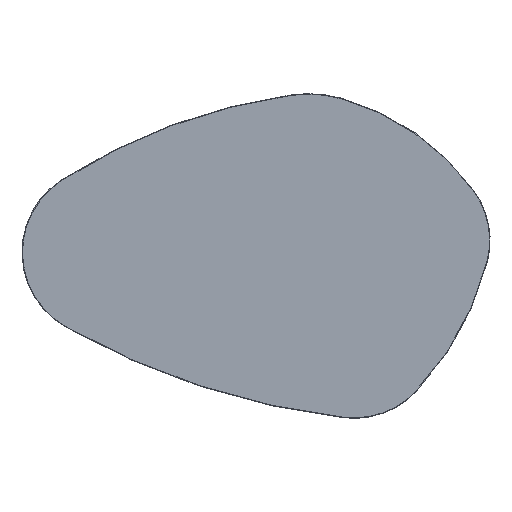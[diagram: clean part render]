
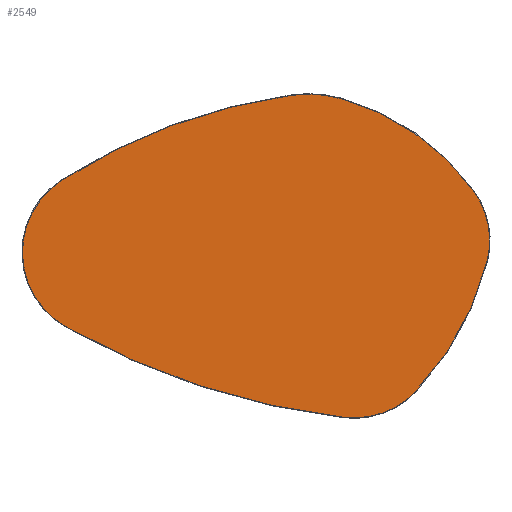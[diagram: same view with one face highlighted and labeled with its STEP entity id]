
A CAD part, top view. The second image highlights one B-rep face of the part: STEP entity #2549.
In plain terms, the highlighted planar face has unit normal (0, 0, 1) as drawn and (0, 0, -1) by its records, which use the part's own axes.
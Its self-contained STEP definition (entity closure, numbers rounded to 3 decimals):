
#510=PLANE('',#3008);
#780=ORIENTED_EDGE('',*,*,#1356,.T.);
#781=ORIENTED_EDGE('',*,*,#1357,.T.);
#782=ORIENTED_EDGE('',*,*,#1358,.T.);
#783=ORIENTED_EDGE('',*,*,#1359,.T.);
#784=ORIENTED_EDGE('',*,*,#1360,.T.);
#785=ORIENTED_EDGE('',*,*,#1361,.T.);
#786=ORIENTED_EDGE('',*,*,#1362,.T.);
#787=ORIENTED_EDGE('',*,*,#1363,.T.);
#1356=EDGE_CURVE('',#1662,#1663,#1862,.T.);
#1357=EDGE_CURVE('',#1663,#1664,#1863,.T.);
#1358=EDGE_CURVE('',#1664,#1665,#1864,.T.);
#1359=EDGE_CURVE('',#1665,#1666,#1865,.T.);
#1360=EDGE_CURVE('',#1666,#1667,#1866,.T.);
#1361=EDGE_CURVE('',#1667,#1668,#1867,.T.);
#1362=EDGE_CURVE('',#1668,#1669,#1868,.T.);
#1363=EDGE_CURVE('',#1669,#1662,#1869,.T.);
#1662=VERTEX_POINT('',#4449);
#1663=VERTEX_POINT('',#4450);
#1664=VERTEX_POINT('',#4452);
#1665=VERTEX_POINT('',#4454);
#1666=VERTEX_POINT('',#4456);
#1667=VERTEX_POINT('',#4458);
#1668=VERTEX_POINT('',#4460);
#1669=VERTEX_POINT('',#4462);
#1862=CIRCLE('',#3009,1174.);
#1863=CIRCLE('',#3010,174.);
#1864=CIRCLE('',#3011,1499.);
#1865=CIRCLE('',#3012,174.);
#1866=CIRCLE('',#3013,599.);
#1867=CIRCLE('',#3014,174.);
#1868=CIRCLE('',#3015,499.);
#1869=CIRCLE('',#3016,249.);
#2049=EDGE_LOOP('',(#780,#781,#782,#783,#784,#785,#786,#787));
#2289=FACE_BOUND('',#2049,.T.);
#2549=ADVANCED_FACE('',(#2289),#510,.T.);
#3008=AXIS2_PLACEMENT_3D('',#4447,#3593,#3594);
#3009=AXIS2_PLACEMENT_3D('',#4448,#3595,#3596);
#3010=AXIS2_PLACEMENT_3D('',#4451,#3597,#3598);
#3011=AXIS2_PLACEMENT_3D('',#4453,#3599,#3600);
#3012=AXIS2_PLACEMENT_3D('',#4455,#3601,#3602);
#3013=AXIS2_PLACEMENT_3D('',#4457,#3603,#3604);
#3014=AXIS2_PLACEMENT_3D('',#4459,#3605,#3606);
#3015=AXIS2_PLACEMENT_3D('',#4461,#3607,#3608);
#3016=AXIS2_PLACEMENT_3D('',#4463,#3609,#3610);
#3593=DIRECTION('',(0.,0.,-1.));
#3594=DIRECTION('',(-1.,0.,0.));
#3595=DIRECTION('',(0.,0.,-1.));
#3596=DIRECTION('',(-1.,0.,0.));
#3597=DIRECTION('',(0.,0.,-1.));
#3598=DIRECTION('',(-1.,0.,0.));
#3599=DIRECTION('',(0.,0.,-1.));
#3600=DIRECTION('',(-1.,0.,0.));
#3601=DIRECTION('',(0.,0.,-1.));
#3602=DIRECTION('',(-1.,0.,0.));
#3603=DIRECTION('',(0.,0.,-1.));
#3604=DIRECTION('',(-1.,0.,0.));
#3605=DIRECTION('',(0.,0.,-1.));
#3606=DIRECTION('',(-1.,0.,0.));
#3607=DIRECTION('',(0.,0.,-1.));
#3608=DIRECTION('',(-1.,0.,0.));
#3609=DIRECTION('',(0.,0.,-1.));
#3610=DIRECTION('',(-1.,0.,0.));
#4447=CARTESIAN_POINT('',(2.509,-619.582,0.));
#4448=CARTESIAN_POINT('',(245.545,794.204,0.));
#4449=CARTESIAN_POINT('',(55.036,-364.236,0.));
#4450=CARTESIAN_POINT('',(-408.477,-180.748,0.));
#4451=CARTESIAN_POINT('',(-311.544,-36.249,0.));
#4452=CARTESIAN_POINT('',(-394.027,116.958,0.));
#4453=CARTESIAN_POINT('',(316.562,-1202.915,0.));
#4454=CARTESIAN_POINT('',(177.28,289.601,0.));
#4455=CARTESIAN_POINT('',(193.448,116.353,0.));
#4456=CARTESIAN_POINT('',(322.589,232.966,0.));
#4457=CARTESIAN_POINT('',(-121.984,-168.476,0.));
#4458=CARTESIAN_POINT('',(461.766,-34.172,0.));
#4459=CARTESIAN_POINT('',(292.196,-73.186,0.));
#4460=CARTESIAN_POINT('',(430.633,-178.595,0.));
#4461=CARTESIAN_POINT('',(33.62,123.699,0.));
#4462=CARTESIAN_POINT('',(157.017,-359.803,0.));
#4463=CARTESIAN_POINT('',(95.442,-118.536,0.));
